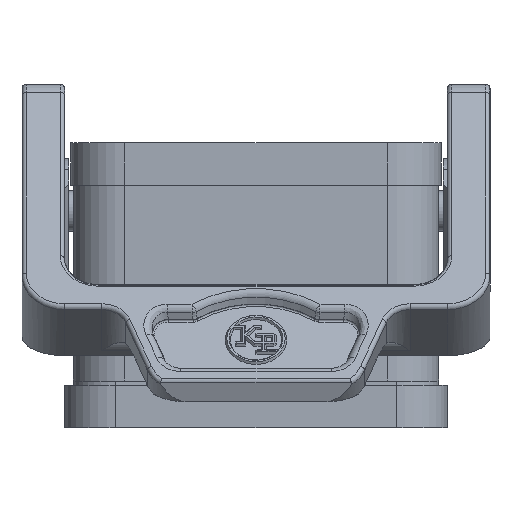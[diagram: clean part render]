
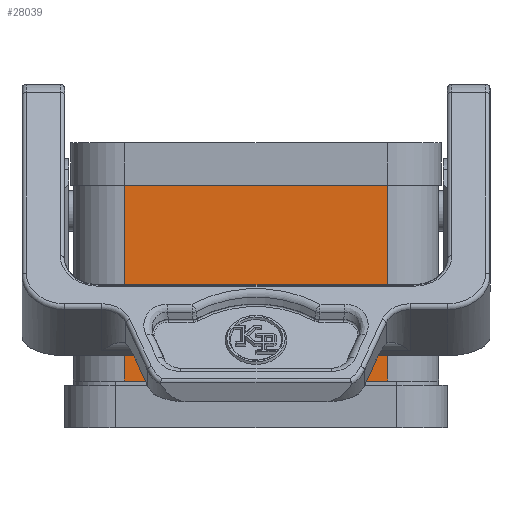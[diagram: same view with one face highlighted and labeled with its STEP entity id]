
A CAD part, left-side view. The second image highlights one B-rep face of the part: STEP entity #28039.
In plain terms, the highlighted planar face has unit normal (-1, 0, 0).
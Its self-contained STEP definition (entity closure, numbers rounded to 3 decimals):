
#27940=CARTESIAN_POINT('',(-59.75,15.5,4.0));
#27941=VERTEX_POINT('',#27940);
#27942=CARTESIAN_POINT('',(-59.75,-15.5,4.0));
#27943=VERTEX_POINT('',#27942);
#27944=CARTESIAN_POINT('',(-59.75,15.5,4.0));
#27945=DIRECTION('',(0.0,-1.0,0.0));
#27946=VECTOR('',#27945,31.);
#27947=LINE('',#27944,#27946);
#27948=EDGE_CURVE('',#27941,#27943,#27947,.T.);
#27997=CARTESIAN_POINT('',(-59.75,15.5,27.0));
#27998=VERTEX_POINT('',#27997);
#27999=CARTESIAN_POINT('',(-59.75,15.5,4.0));
#28000=DIRECTION('',(0.0,0.0,1.0));
#28001=VECTOR('',#28000,23.0);
#28002=LINE('',#27999,#28001);
#28003=EDGE_CURVE('',#27941,#27998,#28002,.T.);
#28016=CARTESIAN_POINT('',(-59.75,-15.5,0.0));
#28017=DIRECTION('',(-1.0,0.0,0.0));
#28018=DIRECTION('',(0.0,0.0,1.0));
#28019=AXIS2_PLACEMENT_3D('',#28016,#28017,#28018);
#28020=PLANE('',#28019);
#28021=ORIENTED_EDGE('',*,*,#27948,.T.);
#28022=CARTESIAN_POINT('',(-59.75,-15.5,27.0));
#28023=VERTEX_POINT('',#28022);
#28024=CARTESIAN_POINT('',(-59.75,-15.5,4.0));
#28025=DIRECTION('',(0.0,0.0,1.0));
#28026=VECTOR('',#28025,23.0);
#28027=LINE('',#28024,#28026);
#28028=EDGE_CURVE('',#27943,#28023,#28027,.T.);
#28029=ORIENTED_EDGE('',*,*,#28028,.T.);
#28030=CARTESIAN_POINT('',(-59.75,-15.5,27.0));
#28031=DIRECTION('',(0.0,1.0,0.0));
#28032=VECTOR('',#28031,31.);
#28033=LINE('',#28030,#28032);
#28034=EDGE_CURVE('',#28023,#27998,#28033,.T.);
#28035=ORIENTED_EDGE('',*,*,#28034,.T.);
#28036=ORIENTED_EDGE('',*,*,#28003,.F.);
#28037=EDGE_LOOP('',(#28021,#28029,#28035,#28036));
#28038=FACE_OUTER_BOUND('',#28037,.T.);
#28039=ADVANCED_FACE('',(#28038),#28020,.T.);
